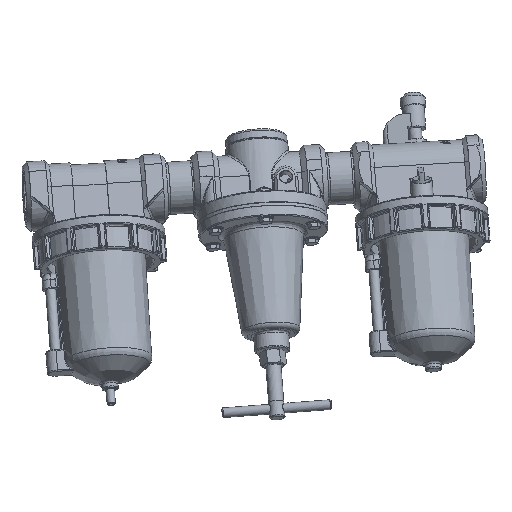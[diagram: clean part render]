
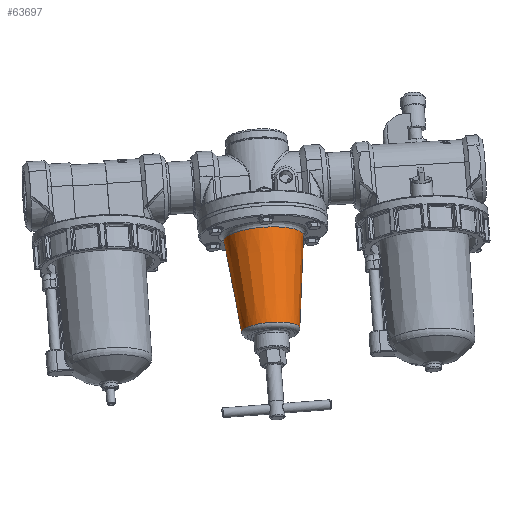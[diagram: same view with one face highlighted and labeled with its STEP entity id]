
A CAD part, front view. The second image highlights one B-rep face of the part: STEP entity #63697.
In plain terms, the highlighted conical face has half-angle 6.4 degrees and reference radius 37.5 mm.
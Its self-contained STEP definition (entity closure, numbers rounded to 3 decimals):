
#63666=CARTESIAN_POINT('',(27.006,0.,103.057));
#63667=VERTEX_POINT('',#63666);
#63668=CARTESIAN_POINT('',(0.0,0.,103.057));
#63669=DIRECTION('',(0.0,0.0,1.0));
#63670=DIRECTION('',(-1.0,0.0,0.0));
#63671=AXIS2_PLACEMENT_3D('',#63668,#63669,#63670);
#63672=CIRCLE('',#63671,27.006);
#63673=EDGE_CURVE('',#63667,#63667,#63672,.T.);
#63678=CARTESIAN_POINT('',(0.0,0.0,9.5));
#63679=DIRECTION('',(0.0,0.0,-1.0));
#63680=DIRECTION('',(-1.0,0.0,0.0));
#63681=AXIS2_PLACEMENT_3D('',#63678,#63679,#63680);
#63682=CONICAL_SURFACE('',#63681,37.5,6.4);
#63683=CARTESIAN_POINT('',(37.002,0.0,13.943));
#63684=VERTEX_POINT('',#63683);
#63685=CARTESIAN_POINT('',(0.0,0.,13.943));
#63686=DIRECTION('',(0.0,0.0,-1.0));
#63687=DIRECTION('',(-1.0,0.0,0.0));
#63688=AXIS2_PLACEMENT_3D('',#63685,#63686,#63687);
#63689=CIRCLE('',#63688,37.002);
#63690=EDGE_CURVE('',#63684,#63684,#63689,.T.);
#63691=ORIENTED_EDGE('',*,*,#63690,.F.);
#63692=EDGE_LOOP('',(#63691));
#63693=FACE_OUTER_BOUND('',#63692,.T.);
#63694=ORIENTED_EDGE('',*,*,#63673,.F.);
#63695=EDGE_LOOP('',(#63694));
#63696=FACE_BOUND('',#63695,.T.);
#63697=ADVANCED_FACE('',(#63693,#63696),#63682,.T.);
